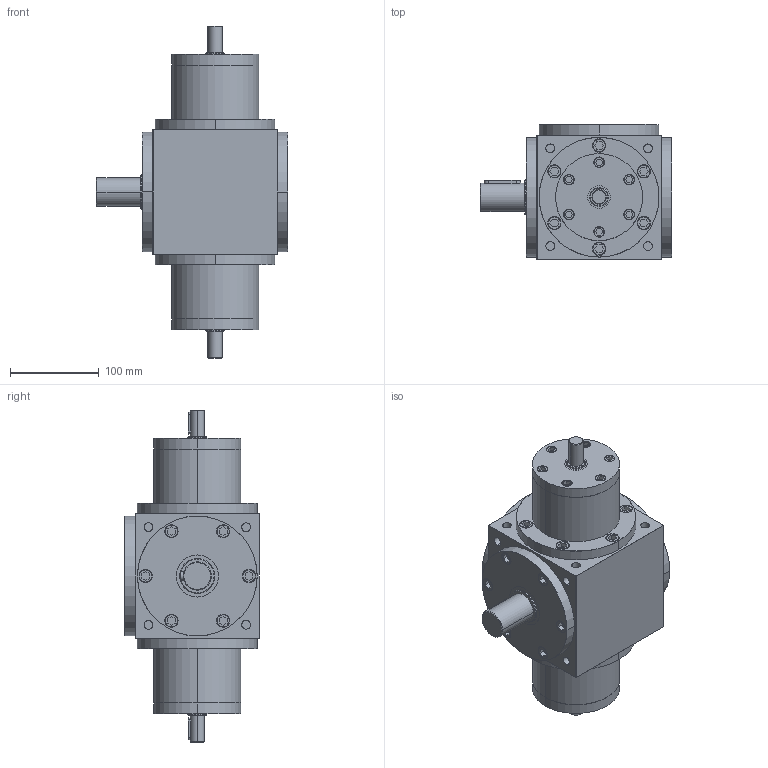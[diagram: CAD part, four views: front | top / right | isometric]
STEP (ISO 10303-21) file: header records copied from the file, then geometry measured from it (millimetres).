
FILE_DESCRIPTION (( 'STEP AP203' ), '1' );
FILE_NAME ('VSAF14-1£º1.5-H.step', '2018-07-14T09:29:41', ( 'IT Division' ), ( 'IT' ), 'SwSTEP 2.0', 'SolidWorks 2016', '' );
FILE_SCHEMA (( 'CONFIG_CONTROL_DESIGN' ));
Length unit declared in the file: millimetre
Products named in the file (1): VSAF14-1：1.5-H
Bounding box: 216 x 152 x 374 mm (x, y, z)
Volume: 4724536.3 mm3; surface area: 243446.8 mm2
Topology: 2 solids, 2 shells, 885 faces, 1975 edges, 1230 vertices
Faces by surface type: plane 435, cylinder 336, torus 94, cone 12, sphere 8
Entity records: 24674 total; most frequent: CARTESIAN_POINT 4655, DIRECTION 4367, ORIENTED_EDGE 3934, EDGE_CURVE 1967, AXIS2_PLACEMENT_3D 1648, VERTEX_POINT 1230, LINE 1071, VECTOR 1071
